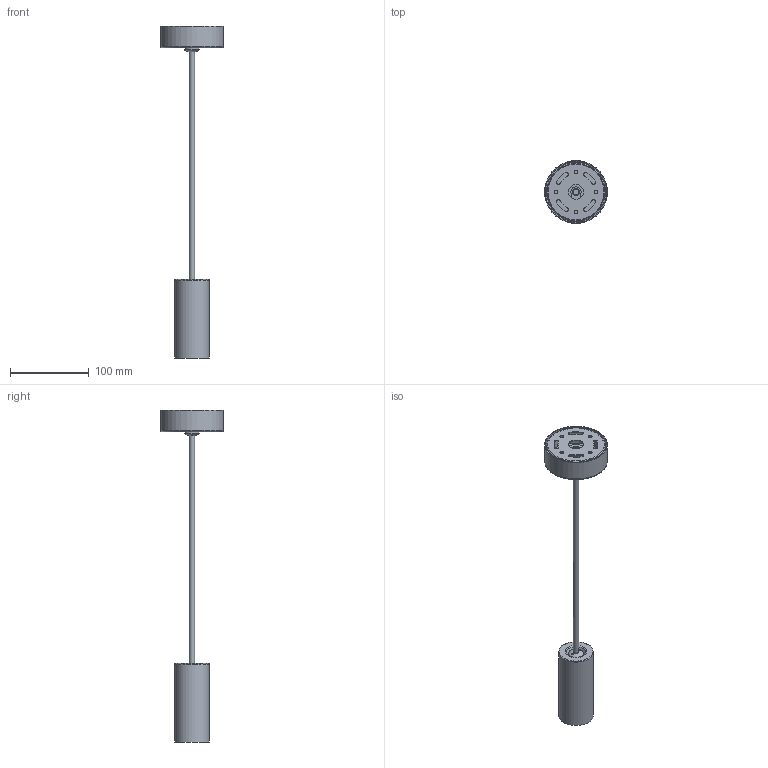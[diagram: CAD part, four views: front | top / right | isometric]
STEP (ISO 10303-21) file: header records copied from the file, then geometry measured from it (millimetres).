
FILE_DESCRIPTION(/* description */ (''),/* implementation_level */ '2;1');
FILE_NAME(/* name */ 'SPIN Technical STEP.step',/* time_stamp */ '2023-07-19T15:27:41+01:00',/* author */ (''),/* organization */ (''),/* preprocessor_version */ 'ST-DEVELOPER v19.2',/* originating_system */ 'Autodesk Translation Framework v12.6.0.85',/* authorisation */ '');
FILE_SCHEMA (('AUTOMOTIVE_DESIGN { 1 0 10303 214 3 1 1 }'));
Products named in the file (13): SPIN Technical; Spin Mild Steel Main Body; BESA Inner; BESA Outer; Female Cordgrip M10x1; Dome Cable Finial; Dome Cable Finial (1); Friction Washer M10; Threaded Cable; E26 Lampholder; Rubber O-ring; M10x1 Coupler 35mm; M10x1 Allthread 15mm
Assembly tree (12 placements, depth 2):
  SPIN Technical
    Spin Mild Steel Main Body
    BESA Inner
    BESA Outer
    Female Cordgrip M10x1
    Dome Cable Finial
    Dome Cable Finial (1)
    Friction Washer M10
    Threaded Cable
    E26 Lampholder
    Rubber O-ring
    M10x1 Coupler 35mm
    M10x1 Allthread 15mm
Bounding box: 80 x 80 x 422.9 mm (x, y, z)
Volume: 95625.5 mm3; surface area: 98579.6 mm2
Topology: 12 solids, 12 shells, 345 faces, 942 edges, 626 vertices
Faces by surface type: cylinder 264, plane 43, bspline 26, torus 10, cone 2
Full cylindrical faces by diameter (mm): 2 x4, 2.93 x2, 3.599 x2, 5 x4, 6.5 x1, 6.75 x1, 7 x3, 8.5 x2, 8.744 x28, 9.036 x47, 9.884 x30, 10 x2, 10.147 x46, 10.5 x1, 12.7 x1, 13 x1, 19 x3, 20 x1, 24.002 x7, 27.349 x8, 36 x1, 38 x1, 42.5 x1, 44.5 x1, 73 x1, 75 x1, 78 x1, 80 x1
Entity records: 35565 total; most frequent: CARTESIAN_POINT 27247, ORIENTED_EDGE 1884, DIRECTION 1269, EDGE_CURVE 942, VERTEX_POINT 626, B_SPLINE_CURVE_WITH_KNOTS 510, AXIS2_PLACEMENT_3D 497, EDGE_LOOP 400
